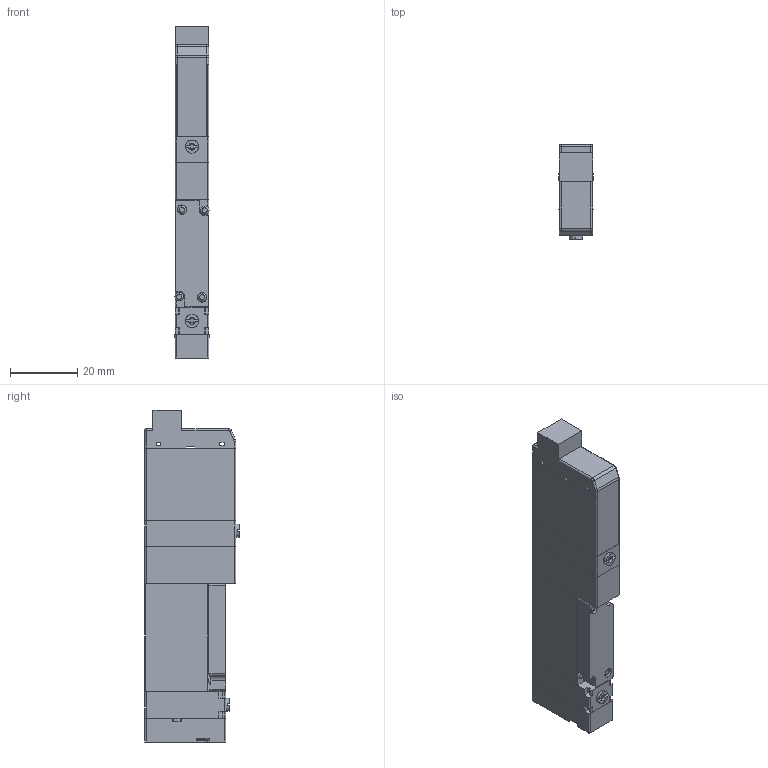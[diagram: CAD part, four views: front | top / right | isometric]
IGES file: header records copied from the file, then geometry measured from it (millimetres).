
Start section: ------------------------------------------------------------------------
Global section: file name: D:\ICADMX\tmp\trans3d_spg\CVICAD02.18204.F10T2-A1-PN_8657.igs; native system: spGate; preprocessor: ver12.6.6; author: Unknown; organization: Unknown; date: 200901.142452; units: millimetre
Bounding box: 10.2 x 28 x 98.5 mm (x, y, z)
Volume: 23652.5 mm3; surface area: 11010.5 mm2
Topology: 7 solids, 7 shells, 247 faces, 628 edges, 410 vertices
Faces by surface type: bspline 247
